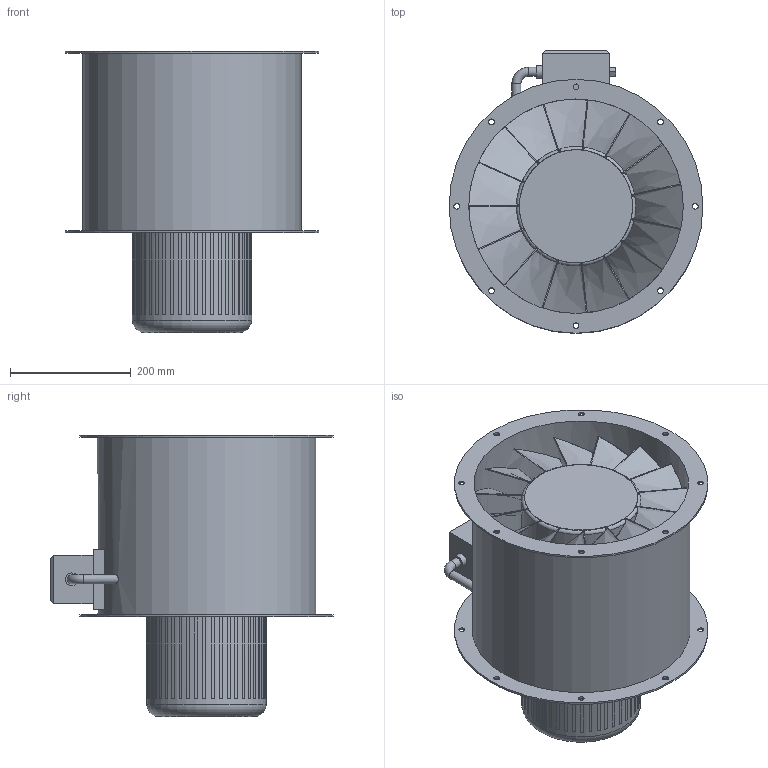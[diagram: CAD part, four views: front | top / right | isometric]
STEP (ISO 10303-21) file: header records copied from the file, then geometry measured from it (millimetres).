
FILE_DESCRIPTION(/* description */ (''),/* implementation_level */ '2;1');
FILE_NAME(/* name */ 'Z:\Output\AMW_355-4-02275-001.stp',/* time_stamp */ '2021-12-10T17:04:05+01:00',/* author */ ('engineering1'),/* organization */ (''),/* preprocessor_version */ 'ST-DEVELOPER v17.2',/* originating_system */ 'Autodesk Inventor 2019',/* authorisation */ '');
FILE_SCHEMA (('AUTOMOTIVE_DESIGN { 1 0 10303 214 3 1 1 }'));
Length unit declared in the file: millimetre
Products named in the file (1): AMD W
Bounding box: 420 x 468 x 465 mm (x, y, z)
Volume: 15998932.9 mm3; surface area: 1770045.7 mm2
Topology: 43 solids, 43 shells, 434 faces, 1021 edges, 645 vertices
Faces by surface type: plane 239, cylinder 133, bspline 45, torus 17
Full cylindrical faces by diameter (mm): 9.5 x16, 15 x3, 21 x1, 197.222 x1, 355 x1, 361 x1, 420 x2
Entity records: 13685 total; most frequent: CARTESIAN_POINT 3911, ORIENTED_EDGE 2042, DIRECTION 1870, EDGE_CURVE 1021, AXIS2_PLACEMENT_3D 673, VERTEX_POINT 645, LINE 524, VECTOR 524
